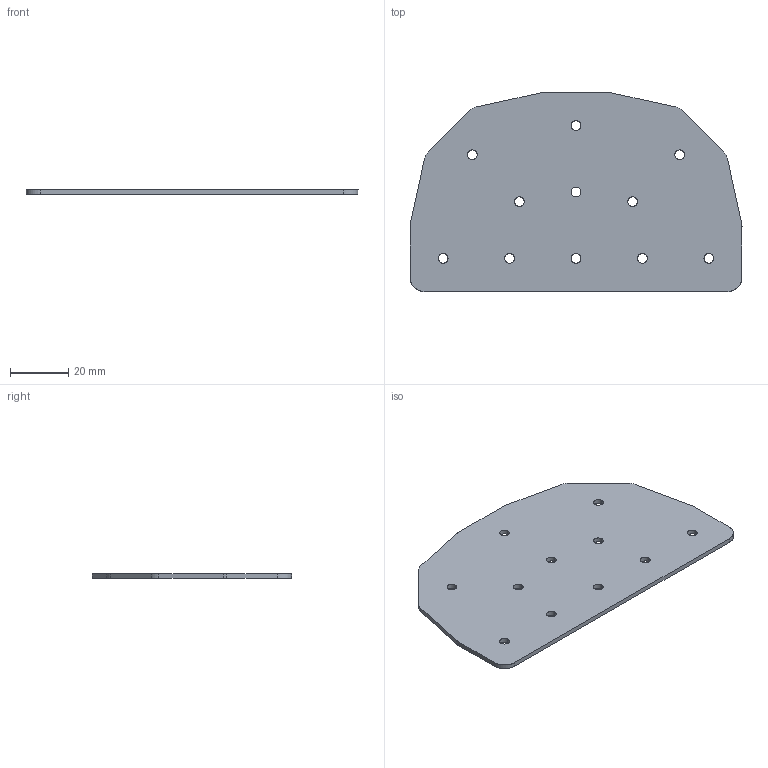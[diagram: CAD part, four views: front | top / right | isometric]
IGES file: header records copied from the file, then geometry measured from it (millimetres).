
Start section: SolidWorks IGES file using analytic representation for surfaces
Global section: file name: C:\Working\Gusset Convert\DRP-002-0002-03.igs; native system: SolidWorks 2010; preprocessor: SolidWorks 2010; author: mbush2; date: 100623.154004; units: inch
Bounding box: 113.67 x 68.2 x 1.59 mm (x, y, z)
Surface area: 14168.9 mm2 (no closed solid volume)
Topology: 0 solids, 0 shells, 44 faces, 964 edges, 964 vertices
Faces by surface type: revolution 32, bspline 12
